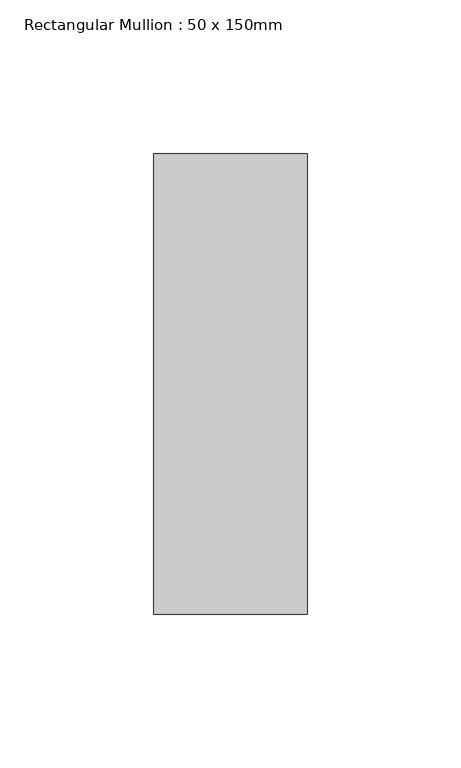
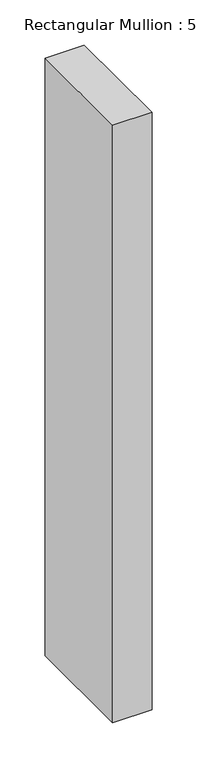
"""IFC4 building model written with IfcOpenShell, lengths in millimetres: member geometry, Rectangular Mullion : 50 x 150mm."""

import ifcopenshell
import ifcopenshell.guid

model = None  # the IFC model being written
_history = None  # IfcOwnerHistory: only IFC2X3 demands one
_inside = {}  # id of a spatial element -> (the spatial element, [elements in it])
_under = {}  # id of a project, library or spatial element -> (it, [spatial elements below it])
_declared = {}  # id of a project -> (the project, [libraries it declares])
_typed = {}  # id of a type object -> (the type object, [elements of that type])
_made_of = {}  # id of a material, layer set ... -> (it, [elements and type objects made of it])


def new_model(schema):
    """Start an empty IFC model of exactly this schema.

    Asked for "IFC4X3", IfcOpenShell would pick the latest addendum, in which some entities
    have other attributes; the version numbers below select the first issue.
    IFC2X3 requires an IfcOwnerHistory on every rooted entity: one is made here for all.
    """
    global model, _history
    if schema == "IFC4X3":
        model = ifcopenshell.file(schema_version=(4, 3, 0, 0))
    else:
        model = ifcopenshell.file(schema=schema)
    _inside.clear()
    _under.clear()
    _declared.clear()
    _typed.clear()
    _made_of.clear()
    _history = None
    if model.schema == "IFC2X3":
        org = make("IfcOrganization", Name="unknown")
        user = make(
            "IfcPersonAndOrganization",
            ThePerson=make("IfcPerson", FamilyName="unknown"),
            TheOrganization=org,
        )
        app = make(
            "IfcApplication",
            ApplicationDeveloper=org,
            Version="unknown",
            ApplicationFullName="unknown",
            ApplicationIdentifier="unknown",
        )
        _history = make(
            "IfcOwnerHistory",
            OwningUser=user,
            OwningApplication=app,
            ChangeAction="ADDED",
            CreationDate=0,
        )
    return model


def make(cls, **values):
    """One entity of the class cls with the attributes given. An attribute that is None is left unset."""
    return model.create_entity(
        cls, **{name: value for name, value in values.items() if value is not None}
    )


def rooted(cls, **values):
    """An entity with a GlobalId (a new one), such as an element, a storey or a relation."""
    return make(cls, GlobalId=ifcopenshell.guid.new(), OwnerHistory=_history, **values)


def si_unit(unit_type, name, prefix=None):
    """IfcSIUnit, for example si_unit("LENGTHUNIT", "METRE", prefix="MILLI")."""
    return make("IfcSIUnit", UnitType=unit_type, Prefix=prefix, Name=name)


def assignment(units):
    """IfcUnitAssignment: the units of a project."""
    return None if units is None else make("IfcUnitAssignment", Units=units)


def point(xyz):
    """IfcCartesianPoint."""
    return None if xyz is None else make("IfcCartesianPoint", Coordinates=xyz)


def direction(xyz):
    """IfcDirection."""
    return None if xyz is None else make("IfcDirection", DirectionRatios=xyz)


def frame(location, z_axis=None, x_axis=None):
    """IfcAxis2Placement3D, a coordinate frame: its origin and axes. An axis left out is left unset."""
    return make(
        "IfcAxis2Placement3D",
        Location=point(location),
        Axis=direction(z_axis),
        RefDirection=direction(x_axis),
    )


def origin():
    """The frame at (0, 0, 0) with its axes left unset."""
    return frame((0.0, 0.0, 0.0))


def place(relative_to, where):
    """IfcLocalPlacement: puts the frame where relative to a parent placement (None: the world)."""
    return make(
        "IfcLocalPlacement", PlacementRelTo=relative_to, RelativePlacement=where
    )


def context(
    kind, dimensions, precision=None, world=None, true_north=None, identifier=None
):
    """IfcGeometricRepresentationContext, for example the 3D "Model" context."""
    return make(
        "IfcGeometricRepresentationContext",
        ContextIdentifier=identifier,
        ContextType=kind,
        CoordinateSpaceDimension=dimensions,
        Precision=precision,
        WorldCoordinateSystem=world,
        TrueNorth=true_north,
    )


def project(units=None, contexts=None):
    """IfcProject with its units and contexts."""
    return rooted(
        "IfcProject",
        Name="project",
        RepresentationContexts=contexts,
        UnitsInContext=assignment(units),
    )


def spatial(cls, under=None, at=None, **own):
    """A site, building, storey or space (cls), placed at a placement, below another one or the project."""
    s = rooted(cls, ObjectPlacement=at, **own)
    if under is not None:
        _under.setdefault(under.id(), (under, []))[1].append(s)
    return s


def polyline(points):
    """IfcPolyline through the points."""
    return make("IfcPolyline", Points=[point(p) for p in points])


def outline(outer, holes=None, kind="AREA"):
    """IfcArbitraryClosedProfileDef: a profile drawn as a closed curve; with holes, ...WithVoids."""
    if holes is None:
        return make("IfcArbitraryClosedProfileDef", ProfileType=kind, OuterCurve=outer)
    return make(
        "IfcArbitraryProfileDefWithVoids",
        ProfileType=kind,
        OuterCurve=outer,
        InnerCurves=holes,
    )


def extrude(swept, where, along, depth):
    """IfcExtrudedAreaSolid: the profile swept, set in the frame where, extruded along a direction by depth."""
    return make(
        "IfcExtrudedAreaSolid",
        SweptArea=swept,
        Position=where,
        ExtrudedDirection=direction(along),
        Depth=depth,
    )


def shape(context_of_items, identifier, shape_type, items):
    """IfcShapeRepresentation: the items that make up one representation, for example the "Body"."""
    return make(
        "IfcShapeRepresentation",
        ContextOfItems=context_of_items,
        RepresentationIdentifier=identifier,
        RepresentationType=shape_type,
        Items=items,
    )


def source(mapping_origin, context_of_items, identifier, shape_type, items):
    """IfcRepresentationMap: a shape defined once, which mapped items show again and again."""
    return make(
        "IfcRepresentationMap",
        MappingOrigin=mapping_origin,
        MappedRepresentation=shape(context_of_items, identifier, shape_type, items),
    )


def transform(
    local_origin,
    x_axis=None,
    y_axis=None,
    z_axis=None,
    scale=None,
    scale2=None,
    scale3=None,
    uniform=True,
):
    """IfcCartesianTransformationOperator3D, or its non-uniform kind. x_axis, y_axis, z_axis: its Axis1, 2, 3."""
    if uniform:
        return make(
            "IfcCartesianTransformationOperator3D",
            Axis1=direction(x_axis),
            Axis2=direction(y_axis),
            LocalOrigin=point(local_origin),
            Scale=scale,
            Axis3=direction(z_axis),
        )
    return make(
        "IfcCartesianTransformationOperator3DnonUniform",
        Axis1=direction(x_axis),
        Axis2=direction(y_axis),
        LocalOrigin=point(local_origin),
        Scale=scale,
        Axis3=direction(z_axis),
        Scale2=scale2,
        Scale3=scale3,
    )


def mapped(mapping_source, mapping_target):
    """IfcMappedItem: shows the shape of a source again, moved by a transform."""
    return make(
        "IfcMappedItem", MappingSource=mapping_source, MappingTarget=mapping_target
    )


def made_of(thing, what):
    """Note that an element or type object is made of a material, layer set ...; save() writes the relation."""
    if what is not None:
        _made_of.setdefault(what.id(), (what, []))[1].append(thing)
    return thing


def element(
    cls,
    number,
    at=None,
    inside=None,
    cuts=None,
    type_object=None,
    material=None,
    context=None,
    identifier="Body",
    shape_type=None,
    held_by="IfcProductDefinitionShape",
    body=None,
    shapes=None,
    **own,
):
    """One element of the class cls, such as IfcWall. Its Tag is "e" and its number.

    at: its placement. inside: the storey or other place that contains it. cuts: it is an
    opening in that element (IfcRelVoidsElement). A single representation is given by context,
    identifier, shape_type and body (its items); several are given by shapes. held_by: the class
    of the entity that holds the representations. save() writes the other relations.
    """
    e = rooted(cls, Tag="e%d" % number, ObjectPlacement=at, **own)
    if body is not None:
        shapes = [shape(context, identifier, shape_type, body)]
    if shapes is not None:
        e.Representation = make(held_by, Representations=shapes)
    if inside is not None:
        _inside.setdefault(inside.id(), (inside, []))[1].append(e)
    if cuts is not None:
        rooted(
            "IfcRelVoidsElement", RelatingBuildingElement=cuts, RelatedOpeningElement=e
        )
    if type_object is not None:
        _typed.setdefault(type_object.id(), (type_object, []))[1].append(e)
    return made_of(e, material)


def aggregate(whole, parts):
    """IfcRelAggregates: a whole, such as a stair, and the parts it consists of."""
    return rooted("IfcRelAggregates", RelatingObject=whole, RelatedObjects=parts)


def save(model, path):
    """Write the relations noted so far, then the file.

    IfcRelAggregates (storeys below a building ...), IfcRelContainedInSpatialStructure (elements
    in a storey), IfcRelDefinesByType, IfcRelAssociatesMaterial and IfcRelDeclares: one each for
    every whole, place, type object, material and project.
    """
    for whole, parts in _under.values():
        aggregate(whole, parts)
    for where, things in _inside.values():
        rooted(
            "IfcRelContainedInSpatialStructure",
            RelatedElements=things,
            RelatingStructure=where,
        )
    for kind, things in _typed.values():
        rooted("IfcRelDefinesByType", RelatedObjects=things, RelatingType=kind)
    for what, things in _made_of.values():
        rooted("IfcRelAssociatesMaterial", RelatedObjects=things, RelatingMaterial=what)
    for by, libraries in _declared.values():
        rooted("IfcRelDeclares", RelatingContext=by, RelatedDefinitions=libraries)
    model.write(path)


def rectangular_mullion_50_x_150mm_2be98281(model_context):
    return source(origin(), model_context, "Body", "SweptSolid", [
        extrude(outline(polyline([(0.0, 75.0), (0.0, -75.0), (-50.0, -75.0), (-50.0, 75.0), (0.0, 75.0)])), frame((0.0, 0.0, -807.3949988), z_axis=(0.0, 0.0, 1.0), x_axis=(1.0, 0.0, 0.0)), (0.0, 0.0, 1.0), 807.3949988),
    ])


if __name__ == "__main__":
    model = new_model("IFC4")
    model_context = context("Model", 3, world=origin())
    ifc_project = project(units=[si_unit("LENGTHUNIT", "METRE", prefix="MILLI")], contexts=[model_context])
    site = spatial("IfcSite", under=ifc_project)
    building = spatial("IfcBuilding", under=site)
    placement = place(None, origin())
    rectangular_mullion_50_x_150mm_shape = rectangular_mullion_50_x_150mm_2be98281(model_context)
    element("IfcMember", 1, ObjectType="Rectangular Mullion : 50 x 150mm", at=placement, inside=building, context=model_context, shape_type="MappedRepresentation", body=[
        mapped(rectangular_mullion_50_x_150mm_shape, transform((0.0, 0.0, 0.0), x_axis=(1.0, 0.0, 0.0), y_axis=(0.0, 1.0, 0.0), z_axis=(0.0, 0.0, 1.0))),
    ])
    save(model, "model.ifc")
